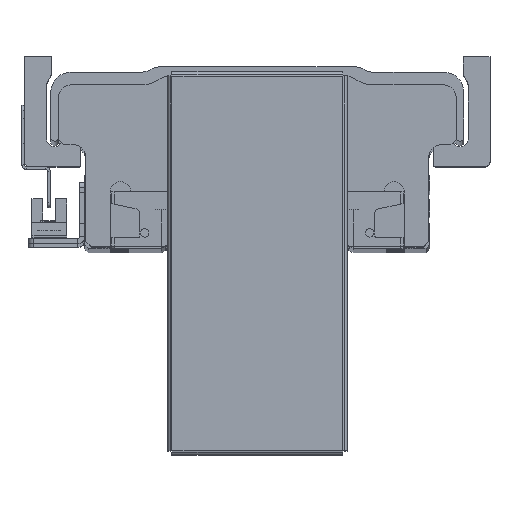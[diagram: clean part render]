
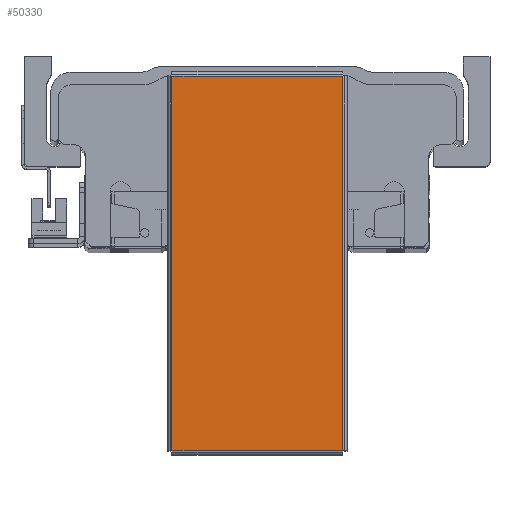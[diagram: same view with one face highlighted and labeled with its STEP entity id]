
A CAD part, top view. The second image highlights one B-rep face of the part: STEP entity #50330.
In plain terms, the highlighted planar face has unit normal (0, 0, 1) as drawn and (0, -1, 0) by its records, which use the part's own axes.
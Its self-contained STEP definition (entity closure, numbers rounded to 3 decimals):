
#3723 = LINE ( 'NONE', #23538, #3808 ) ;
#3757 = LINE ( 'NONE', #23482, #3813 ) ;
#3808 = VECTOR ( 'NONE', #23513, 1000. ) ;
#3813 = VECTOR ( 'NONE', #23480, 1000. ) ;
#3973 = LINE ( 'NONE', #23689, #3993 ) ;
#3993 = VECTOR ( 'NONE', #23716, 1000. ) ;
#4009 = VECTOR ( 'NONE', #23655, 1000. ) ;
#4011 = LINE ( 'NONE', #23643, #4009 ) ;
#12018 = CARTESIAN_POINT ( 'NONE',  ( -73.263, -1., 33.363 ) ) ;
#12037 = CARTESIAN_POINT ( 'NONE',  ( 73.263, -1., 33.363 ) ) ;
#12059 = CARTESIAN_POINT ( 'NONE',  ( 73.263, -1., -33.363 ) ) ;
#12062 = CARTESIAN_POINT ( 'NONE',  ( -73.263, -1., -33.363 ) ) ;
#22491 = ORIENTED_EDGE ( 'NONE', *, *, #26281, .T. ) ;
#22496 = ORIENTED_EDGE ( 'NONE', *, *, #26234, .T. ) ;
#22517 = ORIENTED_EDGE ( 'NONE', *, *, #26291, .T. ) ;
#22529 = ORIENTED_EDGE ( 'NONE', *, *, #26216, .T. ) ;
#23480 = DIRECTION ( 'NONE',  ( 0., 0., -1. ) ) ;
#23482 = CARTESIAN_POINT ( 'NONE',  ( -73.263, -1., 33.393 ) ) ;
#23513 = DIRECTION ( 'NONE',  ( 0., 0., 1. ) ) ;
#23538 = CARTESIAN_POINT ( 'NONE',  ( 73.263, -1., -33.393 ) ) ;
#23643 = CARTESIAN_POINT ( 'NONE',  ( -73.293, -1., -33.363 ) ) ;
#23655 = DIRECTION ( 'NONE',  ( 1., 0., 0. ) ) ;
#23689 = CARTESIAN_POINT ( 'NONE',  ( 73.293, -1., 33.363 ) ) ;
#23716 = DIRECTION ( 'NONE',  ( -1., 0., 0. ) ) ;
#26216 = EDGE_CURVE ( 'NONE', #31654, #31640, #3757, .T. ) ;
#26234 = EDGE_CURVE ( 'NONE', #31636, #31633, #3723, .T. ) ;
#26281 = EDGE_CURVE ( 'NONE', #31640, #31636, #4011, .T. ) ;
#26291 = EDGE_CURVE ( 'NONE', #31633, #31654, #3973, .T. ) ;
#29392 = AXIS2_PLACEMENT_3D ( 'NONE', #50313, #50319, #50281 ) ;
#31633 = VERTEX_POINT ( 'NONE', #12037 ) ;
#31636 = VERTEX_POINT ( 'NONE', #12059 ) ;
#31640 = VERTEX_POINT ( 'NONE', #12062 ) ;
#31654 = VERTEX_POINT ( 'NONE', #12018 ) ;
#37814 = FACE_OUTER_BOUND ( 'NONE', #46529, .T. ) ;
#46529 = EDGE_LOOP ( 'NONE', ( #22517, #22529, #22491, #22496 ) ) ;
#50281 = DIRECTION ( 'NONE',  ( 0., 0., 1. ) ) ;
#50309 = PLANE ( 'NONE',  #29392 ) ;
#50313 = CARTESIAN_POINT ( 'NONE',  ( 0., -1., 0. ) ) ;
#50319 = DIRECTION ( 'NONE',  ( 0., 1., 0. ) ) ;
#50330 = ADVANCED_FACE ( 'NONE', ( #37814 ), #50309, .F. ) ;
